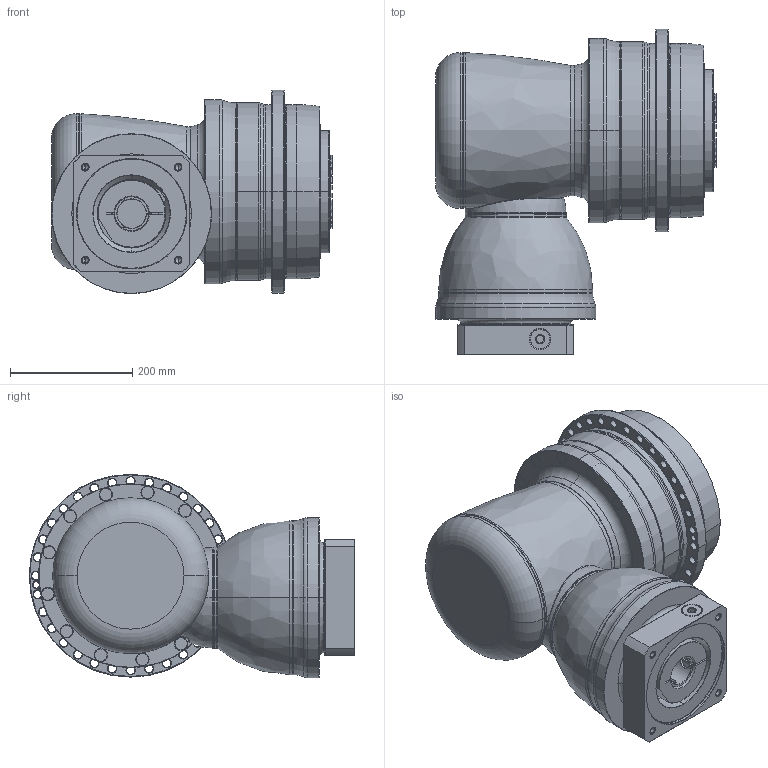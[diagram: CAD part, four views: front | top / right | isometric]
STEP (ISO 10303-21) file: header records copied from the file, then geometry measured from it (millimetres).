
FILE_DESCRIPTION((''),'2;1');
FILE_NAME('APCK285_2ST_48-P0409B10201_ASM','2018-05-10T',('d01226'),(''),'PRO/ENGINEER BY PARAMETRIC TECHNOLOGY CORPORATION, 2008410','PRO/ENGINEER BY PARAMETRIC TECHNOLOGY CORPORATION, 2008410','');
FILE_SCHEMA(('CONFIG_CONTROL_DESIGN'));
Length unit declared in the file: millimetre
Products named in the file (13): P1008700002; P1802810001; P0278801003; P03598G0103; P1211800001; P1315700001; P1007701001; P1318701301; P0409B10201; P0503B00016; P0912753001; 21711426021; APCK285_2ST_48-P0409B10201_ASM
Assembly tree (12 placements, depth 2):
  APCK285_2ST_48-P0409B10201_ASM
    P1008700002
    P1802810001
    P0278801003
    P03598G0103
    P1211800001
    P1315700001
    P1007701001
    P1318701301
    P0409B10201
    P0503B00016
    P0912753001
    21711426021
Bounding box: 459.6 x 533 x 333 mm (x, y, z)
Volume: 35137976.7 mm3; surface area: 1880355.2 mm2
Topology: 13 solids, 25 shells, 959 faces, 2283 edges, 1409 vertices
Faces by surface type: cylinder 303, cone 302, plane 184, torus 140, bspline 28, sphere 2
Entity records: 36520 total; most frequent: CARTESIAN_POINT 13615, DIRECTION 5158, ORIENTED_EDGE 4488, AXIS2_PLACEMENT_3D 2271, EDGE_CURVE 2269, VERTEX_POINT 1409, CIRCLE 1303, EDGE_LOOP 1116
